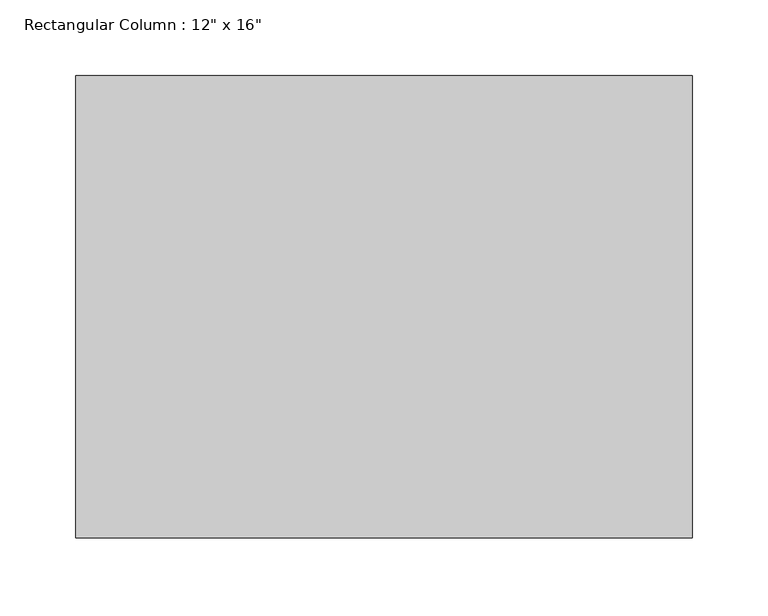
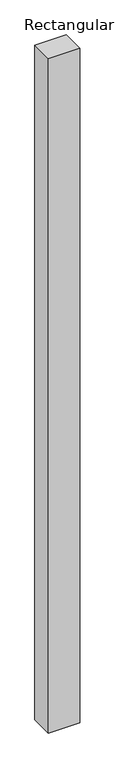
"""IFC4 building model written with IfcOpenShell, lengths in millimetres: column geometry."""

from ifc_helpers import new_model, si_unit, frame, origin, place, context, project, spatial, polyline, outline, extrude, source, transform, mapped, element, save


def column_d698a775(model_context):
    return source(origin(), model_context, "Body", "SweptSolid", [
        extrude(outline(polyline([(203.2, -152.4), (-203.2, -152.4), (-203.2, 152.4), (203.2, 152.4), (203.2, -152.4)])), frame((0.0, 0.0, -6007.1), z_axis=(0.0, 0.0, 1.0), x_axis=(1.0, 0.0, 0.0)), (0.0, 0.0, 1.0), 9232.9),
    ])


if __name__ == "__main__":
    model = new_model("IFC4")
    model_context = context("Model", 3, world=origin())
    ifc_project = project(units=[si_unit("LENGTHUNIT", "METRE", prefix="MILLI")], contexts=[model_context])
    site = spatial("IfcSite", under=ifc_project)
    building = spatial("IfcBuilding", under=site)
    placement = place(None, origin())
    column_shape = column_d698a775(model_context)
    element("IfcColumn", 1, ObjectType="Rectangular Column : 12\" x 16\"", at=placement, inside=building, context=model_context, shape_type="MappedRepresentation", body=[
        mapped(column_shape, transform((0.0, 0.0, 0.0), x_axis=(1.0, 0.0, 0.0), y_axis=(0.0, 1.0, 0.0), z_axis=(0.0, 0.0, 1.0))),
    ])
    save(model, "model.ifc")
